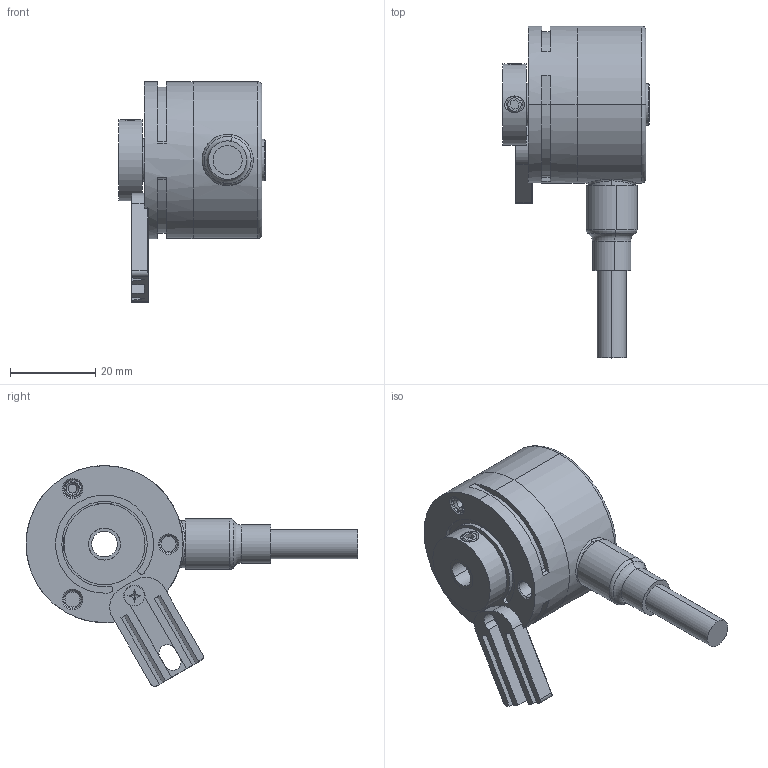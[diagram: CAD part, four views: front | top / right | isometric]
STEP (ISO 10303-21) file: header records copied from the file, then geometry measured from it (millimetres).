
FILE_DESCRIPTION (( 'STEP AP214' ), '1' );
FILE_NAME ('3720.23X1.XXXX.STEP', '2008-11-28T06:28:00', ( 'admin' ), ( 'Fritz Kübler GmbH' ), 'SwSTEP 2.0', 'SolidWorks 2008', '' );
FILE_SCHEMA (( 'AUTOMOTIVE_DESIGN' ));
Length unit declared in the file: millimetre
Products named in the file (1): 3720.23X1.XXXX
Bounding box: 34.3 x 77.8 x 51.76 mm (x, y, z)
Volume: 17062.5 mm3; surface area: 19829.2 mm2
Topology: 12 solids, 12 shells, 766 faces, 1888 edges, 1167 vertices
Faces by surface type: cylinder 282, plane 234, torus 90, bspline 77, cone 58, sphere 25
Entity records: 33933 total; most frequent: CARTESIAN_POINT 7789, DIRECTION 3768, ORIENTED_EDGE 3730, EDGE_CURVE 1865, AXIS2_PLACEMENT_3D 1544, VERTEX_POINT 1157, CIRCLE 854, EDGE_LOOP 824
